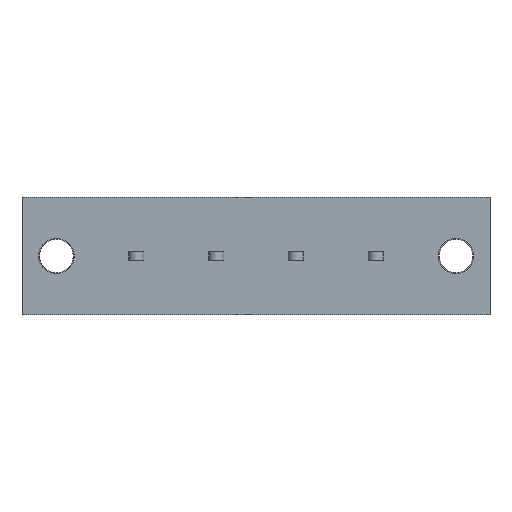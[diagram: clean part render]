
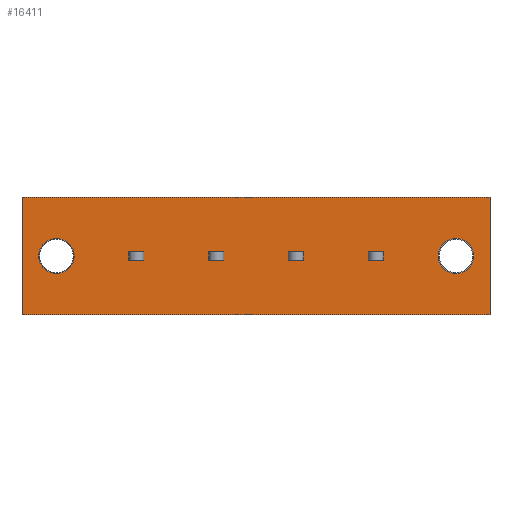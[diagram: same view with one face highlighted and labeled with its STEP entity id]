
A CAD part, front view. The second image highlights one B-rep face of the part: STEP entity #16411.
In plain terms, the highlighted planar face has unit normal (0, -1, 0).
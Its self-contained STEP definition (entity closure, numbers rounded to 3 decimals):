
#870=CIRCLE('',#17441,2.1);
#910=CIRCLE('',#17576,2.1);
#948=VERTEX_POINT('',#21242);
#949=VERTEX_POINT('',#21243);
#952=VERTEX_POINT('',#21251);
#985=VERTEX_POINT('',#21335);
#1126=VERTEX_POINT('',#21781);
#1127=VERTEX_POINT('',#21782);
#1130=VERTEX_POINT('',#21790);
#1163=VERTEX_POINT('',#21874);
#1549=VERTEX_POINT('',#23113);
#1550=VERTEX_POINT('',#23114);
#1553=VERTEX_POINT('',#23122);
#1565=VERTEX_POINT('',#23161);
#2041=VERTEX_POINT('',#25064);
#2042=VERTEX_POINT('',#25066);
#2046=VERTEX_POINT('',#25076);
#2050=VERTEX_POINT('',#25106);
#2051=VERTEX_POINT('',#25107);
#2054=VERTEX_POINT('',#25115);
#2066=VERTEX_POINT('',#25154);
#2192=VERTEX_POINT('',#25503);
#2193=VERTEX_POINT('',#25542);
#2195=VERTEX_POINT('',#25548);
#2602=VECTOR('',#17797,1.);
#2606=VECTOR('',#17802,1.);
#2641=VECTOR('',#17864,1.);
#2643=VECTOR('',#17867,1.);
#2775=VECTOR('',#18209,1.);
#2779=VECTOR('',#18214,1.);
#2814=VECTOR('',#18276,1.);
#2816=VECTOR('',#18279,1.);
#3211=VECTOR('',#19192,1.);
#3214=VECTOR('',#19198,1.);
#3230=VECTOR('',#19231,1.);
#3233=VECTOR('',#19239,1.);
#3778=VECTOR('',#20114,1.);
#3795=VECTOR('',#20154,1.);
#3798=VECTOR('',#20160,1.);
#3814=VECTOR('',#20193,1.);
#3817=VECTOR('',#20201,1.);
#3948=VECTOR('',#20457,1.);
#3967=VECTOR('',#20502,1.);
#3970=VECTOR('',#20508,1.);
#4444=LINE('',#21241,#2602);
#4448=LINE('',#21250,#2606);
#4483=LINE('',#21334,#2641);
#4485=LINE('',#21338,#2643);
#4617=LINE('',#21780,#2775);
#4621=LINE('',#21789,#2779);
#4656=LINE('',#21873,#2814);
#4658=LINE('',#21877,#2816);
#5053=LINE('',#23112,#3211);
#5056=LINE('',#23121,#3214);
#5072=LINE('',#23160,#3230);
#5075=LINE('',#23168,#3233);
#5620=LINE('',#25065,#3778);
#5637=LINE('',#25105,#3795);
#5640=LINE('',#25114,#3798);
#5656=LINE('',#25153,#3814);
#5659=LINE('',#25161,#3817);
#5790=LINE('',#25504,#3948);
#5809=LINE('',#25541,#3967);
#5812=LINE('',#25549,#3970);
#6288=EDGE_CURVE('',#948,#949,#4444,.T.);
#6292=EDGE_CURVE('',#952,#948,#4448,.T.);
#6337=EDGE_CURVE('',#985,#952,#4483,.T.);
#6339=EDGE_CURVE('',#949,#985,#4485,.T.);
#6540=EDGE_CURVE('',#1126,#1127,#4617,.T.);
#6544=EDGE_CURVE('',#1130,#1126,#4621,.T.);
#6589=EDGE_CURVE('',#1163,#1130,#4656,.T.);
#6591=EDGE_CURVE('',#1127,#1163,#4658,.T.);
#7172=EDGE_CURVE('',#1549,#1550,#5053,.T.);
#7176=EDGE_CURVE('',#1550,#1553,#5056,.T.);
#7200=EDGE_CURVE('',#1553,#1565,#5072,.T.);
#7204=EDGE_CURVE('',#1565,#1549,#5075,.T.);
#7907=EDGE_CURVE('',#2042,#2041,#5620,.T.);
#7912=EDGE_CURVE('',#2046,#2046,#870,.T.);
#7927=EDGE_CURVE('',#2050,#2051,#5637,.T.);
#7931=EDGE_CURVE('',#2051,#2054,#5640,.T.);
#7955=EDGE_CURVE('',#2054,#2066,#5656,.T.);
#7959=EDGE_CURVE('',#2066,#2050,#5659,.T.);
#8137=EDGE_CURVE('',#2041,#2192,#5790,.T.);
#8156=EDGE_CURVE('',#2042,#2193,#5809,.T.);
#8159=EDGE_CURVE('',#2195,#2195,#910,.T.);
#8160=EDGE_CURVE('',#2192,#2193,#5812,.T.);
#12453=ORIENTED_EDGE('',*,*,#6292,.T.);
#12454=ORIENTED_EDGE('',*,*,#6288,.T.);
#12455=ORIENTED_EDGE('',*,*,#6339,.T.);
#12456=ORIENTED_EDGE('',*,*,#6337,.T.);
#12457=ORIENTED_EDGE('',*,*,#6544,.T.);
#12458=ORIENTED_EDGE('',*,*,#6540,.T.);
#12459=ORIENTED_EDGE('',*,*,#6591,.T.);
#12460=ORIENTED_EDGE('',*,*,#6589,.T.);
#12461=ORIENTED_EDGE('',*,*,#7200,.F.);
#12462=ORIENTED_EDGE('',*,*,#7176,.F.);
#12463=ORIENTED_EDGE('',*,*,#7172,.F.);
#12464=ORIENTED_EDGE('',*,*,#7204,.F.);
#12465=ORIENTED_EDGE('',*,*,#7955,.F.);
#12466=ORIENTED_EDGE('',*,*,#7931,.F.);
#12467=ORIENTED_EDGE('',*,*,#7927,.F.);
#12468=ORIENTED_EDGE('',*,*,#7959,.F.);
#12469=ORIENTED_EDGE('',*,*,#7912,.T.);
#12470=ORIENTED_EDGE('',*,*,#8159,.T.);
#12471=ORIENTED_EDGE('',*,*,#8137,.T.);
#12472=ORIENTED_EDGE('',*,*,#8160,.T.);
#12473=ORIENTED_EDGE('',*,*,#8156,.F.);
#12474=ORIENTED_EDGE('',*,*,#7907,.T.);
#14462=EDGE_LOOP('',(#12453,#12454,#12455,#12456));
#14463=EDGE_LOOP('',(#12457,#12458,#12459,#12460));
#14464=EDGE_LOOP('',(#12461,#12462,#12463,#12464));
#14465=EDGE_LOOP('',(#12465,#12466,#12467,#12468));
#14466=EDGE_LOOP('',(#12469));
#14467=EDGE_LOOP('',(#12470));
#14468=EDGE_LOOP('',(#12471,#12472,#12473,#12474));
#15468=FACE_BOUND('',#14462,.T.);
#15469=FACE_BOUND('',#14463,.T.);
#15470=FACE_BOUND('',#14464,.T.);
#15471=FACE_BOUND('',#14465,.T.);
#15472=FACE_BOUND('',#14466,.T.);
#15473=FACE_BOUND('',#14467,.T.);
#15474=FACE_BOUND('',#14468,.T.);
#16411=ADVANCED_FACE('',(#15468,#15469,#15470,#15471,#15472,#15473,#15474),
#27695,.T.);
#17441=AXIS2_PLACEMENT_3D('',#25075,#20122,#20123);
#17575=AXIS2_PLACEMENT_3D('',#25546,#20505,$);
#17576=AXIS2_PLACEMENT_3D('',#25547,#20506,#20507);
#17797=DIRECTION('',(0.,0.,1.));
#17802=DIRECTION('',(-1.,0.,0.));
#17864=DIRECTION('',(0.,0.,-1.));
#17867=DIRECTION('',(1.,0.,0.));
#18209=DIRECTION('',(0.,0.,1.));
#18214=DIRECTION('',(-1.,0.,0.));
#18276=DIRECTION('',(0.,0.,-1.));
#18279=DIRECTION('',(1.,0.,0.));
#19192=DIRECTION('',(-1.,0.,0.));
#19198=DIRECTION('',(0.,0.,-1.));
#19231=DIRECTION('',(1.,0.,0.));
#19239=DIRECTION('',(0.,0.,1.));
#20114=DIRECTION('',(0.,0.,-1.));
#20122=DIRECTION('',(0.,1.,0.));
#20123=DIRECTION('',(2.1,0.,0.));
#20154=DIRECTION('',(-1.,0.,0.));
#20160=DIRECTION('',(0.,0.,-1.));
#20193=DIRECTION('',(1.,0.,0.));
#20201=DIRECTION('',(0.,0.,1.));
#20457=DIRECTION('',(1.,0.,0.));
#20502=DIRECTION('',(1.,0.,0.));
#20505=DIRECTION('',(0.,-1.,0.));
#20506=DIRECTION('',(0.,1.,0.));
#20507=DIRECTION('',(2.1,0.,0.));
#20508=DIRECTION('',(0.,0.,1.));
#21241=CARTESIAN_POINT('',(41.2,0.,-1.75));
#21242=CARTESIAN_POINT('',(41.2,0.,-0.5));
#21243=CARTESIAN_POINT('',(41.2,0.,0.5));
#21250=CARTESIAN_POINT('',(44.125,0.,-0.5));
#21251=CARTESIAN_POINT('',(43.,0.,-0.5));
#21334=CARTESIAN_POINT('',(43.,0.,-1.75));
#21335=CARTESIAN_POINT('',(43.,0.,0.5));
#21338=CARTESIAN_POINT('',(44.125,0.,0.5));
#21780=CARTESIAN_POINT('',(31.7,0.,-1.75));
#21781=CARTESIAN_POINT('',(31.7,0.,-0.5));
#21782=CARTESIAN_POINT('',(31.7,0.,0.5));
#21789=CARTESIAN_POINT('',(16.3,0.,-0.5));
#21790=CARTESIAN_POINT('',(33.5,0.,-0.5));
#21873=CARTESIAN_POINT('',(33.5,0.,-1.75));
#21874=CARTESIAN_POINT('',(33.5,0.,0.5));
#21877=CARTESIAN_POINT('',(16.3,0.,0.5));
#23112=CARTESIAN_POINT('',(21.075,0.,0.5));
#23113=CARTESIAN_POINT('',(24.,0.,0.5));
#23114=CARTESIAN_POINT('',(22.2,0.,0.5));
#23121=CARTESIAN_POINT('',(22.2,0.,-1.75));
#23122=CARTESIAN_POINT('',(22.2,0.,-0.5));
#23160=CARTESIAN_POINT('',(21.075,0.,-0.5));
#23161=CARTESIAN_POINT('',(24.,0.,-0.5));
#23168=CARTESIAN_POINT('',(24.,0.,-1.75));
#25064=CARTESIAN_POINT('',(0.,0.,-7.));
#25065=CARTESIAN_POINT('',(0.,0.,7.));
#25066=CARTESIAN_POINT('',(0.,0.,7.));
#25075=CARTESIAN_POINT('',(4.1,0.,0.));
#25076=CARTESIAN_POINT('',(2.,0.,0.));
#25105=CARTESIAN_POINT('',(11.575,0.,0.5));
#25106=CARTESIAN_POINT('',(14.5,0.,0.5));
#25107=CARTESIAN_POINT('',(12.7,0.,0.5));
#25114=CARTESIAN_POINT('',(12.7,0.,-1.75));
#25115=CARTESIAN_POINT('',(12.7,0.,-0.5));
#25153=CARTESIAN_POINT('',(11.575,0.,-0.5));
#25154=CARTESIAN_POINT('',(14.5,0.,-0.5));
#25161=CARTESIAN_POINT('',(14.5,0.,-1.75));
#25503=CARTESIAN_POINT('',(55.7,0.,-7.));
#25504=CARTESIAN_POINT('',(46.15,0.,-7.));
#25541=CARTESIAN_POINT('',(0.,0.,7.));
#25542=CARTESIAN_POINT('',(55.7,0.,7.));
#25546=CARTESIAN_POINT('',(46.15,0.,0.));
#25547=CARTESIAN_POINT('',(51.65,0.,0.));
#25548=CARTESIAN_POINT('',(49.55,0.,0.));
#25549=CARTESIAN_POINT('',(55.7,0.,7.));
#27695=PLANE('',#17575);
